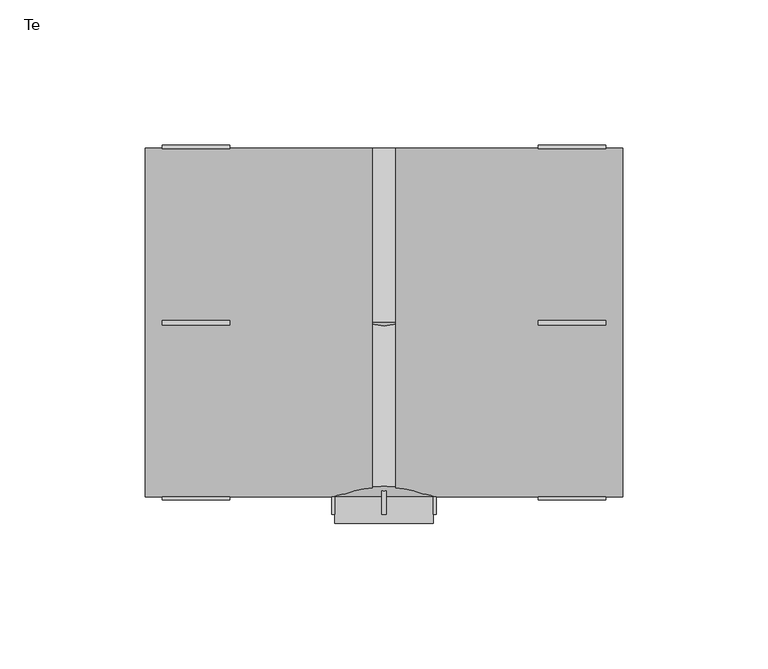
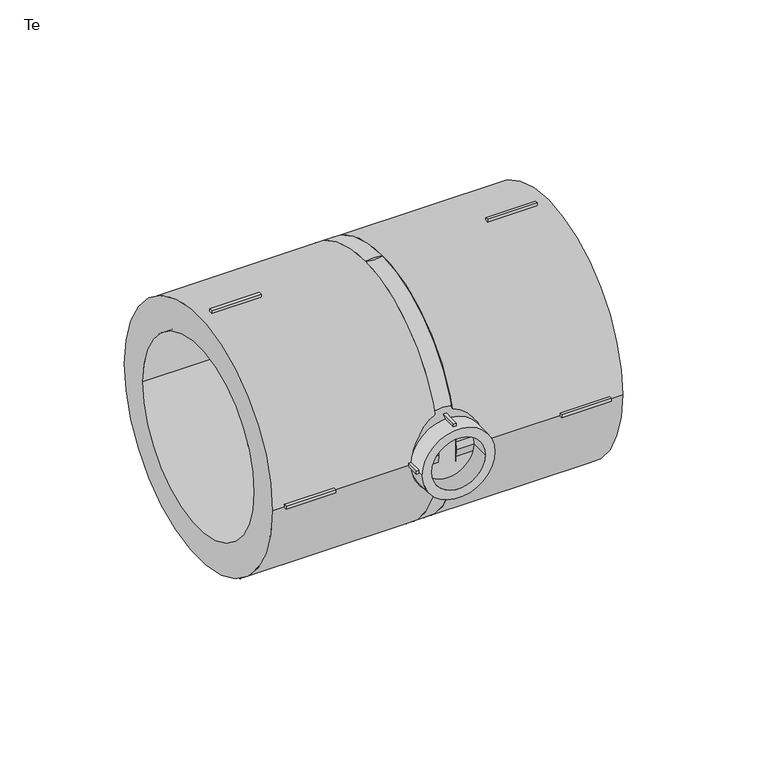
"""IFC4 building model written with IfcOpenShell, lengths in millimetres: pipe fitting geometry, EGB_VASEN_ PPR_Te WXR300_Te reducida WXR310 : Te."""

from ifc_helpers import new_model, si_unit, point, frame, origin, origin_2d, place, context, project, spatial, polyline, circle_curve, trimmed, segment, composite_curve, outline, extrude, source, transform, mapped, element, save
from ifc_brep_helpers import plane_surface, revolved_surface, advanced_brep


def te_e2ba4505(model_context):
    return source(origin(), model_context, "Body", "SolidModel", [
        extrude(outline(polyline([(-0.75, -54.0), (0.75, -54.0), (0.75, -66.0), (-0.75, -66.0), (-0.75, -54.0)])), frame((0.0, 0.0, 16.0), z_axis=(0.0, 0.0, 1.0), x_axis=(1.0, 0.0, 0.0)), (0.0, 0.0, 1.0), 2.0),
        extrude(outline(polyline([(-0.75, -54.0), (0.75, -54.0), (0.75, -66.0), (-0.75, -66.0), (-0.75, -54.0)])), frame((0.0, 0.0, -18.0), z_axis=(0.0, 0.0, 1.0), x_axis=(1.0, 0.0, 0.0)), (0.0, 0.0, 1.0), 2.0),
        extrude(outline(polyline([(16.0, -54.0), (18.0, -54.0), (18.0, -66.0), (16.0, -66.0), (16.0, -54.0)])), frame((0.0, 0.0, -0.75), z_axis=(0.0, 0.0, 1.0), x_axis=(1.0, 0.0, 0.0)), (0.0, 0.0, 1.0), 1.5),
        extrude(outline(polyline([(-18.0, -54.0), (-16.0, -54.0), (-16.0, -66.0), (-18.0, -66.0), (-18.0, -54.0)])), frame((0.0, 0.0, -0.75), z_axis=(0.0, 0.0, 1.0), x_axis=(1.0, 0.0, 0.0)), (0.0, 0.0, 1.0), 1.5),
        extrude(outline(polyline([(53.0, -0.75), (53.0, 0.75), (76.2, 0.75), (76.2, -0.75), (53.0, -0.75)])), frame((0.0, 0.0, 59.0), z_axis=(0.0, 0.0, 1.0), x_axis=(1.0, 0.0, 0.0)), (0.0, 0.0, 1.0), 2.0),
        extrude(outline(polyline([(53.0, -0.75), (53.0, 0.75), (76.2, 0.75), (76.2, -0.75), (53.0, -0.75)])), frame((0.0, 0.0, -61.0), z_axis=(0.0, 0.0, 1.0), x_axis=(1.0, 0.0, 0.0)), (0.0, 0.0, 1.0), 2.0),
        extrude(outline(polyline([(53.0, 59.0), (53.0, 61.0), (76.2, 61.0), (76.2, 59.0), (53.0, 59.0)])), frame((0.0, 0.0, -0.75), z_axis=(0.0, 0.0, 1.0), x_axis=(1.0, 0.0, 0.0)), (0.0, 0.0, 1.0), 1.5),
        extrude(outline(polyline([(53.0, -61.0), (53.0, -59.0), (76.2, -59.0), (76.2, -61.0), (53.0, -61.0)])), frame((0.0, 0.0, -0.75), z_axis=(0.0, 0.0, 1.0), x_axis=(1.0, 0.0, 0.0)), (0.0, 0.0, 1.0), 1.5),
        extrude(outline(polyline([(-53.0, 0.75), (-53.0, -0.75), (-76.2, -0.75), (-76.2, 0.75), (-53.0, 0.75)])), frame((0.0, 0.0, 59.0), z_axis=(0.0, 0.0, 1.0), x_axis=(1.0, 0.0, 0.0)), (0.0, 0.0, 1.0), 2.0),
        extrude(outline(polyline([(-53.0, 0.75), (-53.0, -0.75), (-76.2, -0.75), (-76.2, 0.75), (-53.0, 0.75)])), frame((0.0, 0.0, -61.0), z_axis=(0.0, 0.0, 1.0), x_axis=(1.0, 0.0, 0.0)), (0.0, 0.0, 1.0), 2.0),
        extrude(outline(polyline([(-53.0, 61.0), (-53.0, 59.0), (-76.2, 59.0), (-76.2, 61.0), (-53.0, 61.0)])), frame((0.0, 0.0, -0.75), z_axis=(0.0, 0.0, 1.0), x_axis=(1.0, 0.0, 0.0)), (0.0, 0.0, 1.0), 1.5),
        extrude(outline(polyline([(-53.0, -59.0), (-53.0, -61.0), (-76.2, -61.0), (-76.2, -59.0), (-53.0, -59.0)])), frame((0.0, 0.0, -0.75), z_axis=(0.0, 0.0, 1.0), x_axis=(1.0, 0.0, 0.0)), (0.0, 0.0, 1.0), 1.5),
        extrude(outline(composite_curve([segment(trimmed(circle_curve(origin_2d(), 17.0), [point((0.0, 17.0))], [point((0.0, -17.0))], False, "CARTESIAN"), True, "CONTINUOUS"), segment(trimmed(circle_curve(origin_2d(), 17.0), [point((0.0, -17.0))], [point((0.0, 17.0))], False, "CARTESIAN"), True, "CONTINUOUS")], self_intersect=False), holes=[composite_curve([segment(trimmed(circle_curve(origin_2d(), 12.5), [point((0.0, 12.5))], [point((0.0, -12.5))], True, "CARTESIAN"), True, "CONTINUOUS"), segment(trimmed(circle_curve(origin_2d(), 12.5), [point((0.0, -12.5))], [point((0.0, 12.5))], True, "CARTESIAN"), True, "CONTINUOUS")], self_intersect=False)]), frame((0.0, -69.0, 0.0), z_axis=(0.0, 1.0, 0.0), x_axis=(0.0, 0.0, 1.0)), (0.0, 0.0, 1.0), 9.0),
        extrude(outline(composite_curve([segment(trimmed(circle_curve(origin_2d(), 60.0), [point((-60.0, 0.0))], [point((60.0, 0.0))], False, "CARTESIAN"), True, "CONTINUOUS"), segment(trimmed(circle_curve(origin_2d(), 60.0), [point((60.0, 0.0))], [point((-60.0, 0.0))], False, "CARTESIAN"), True, "CONTINUOUS")], self_intersect=False), holes=[composite_curve([segment(trimmed(circle_curve(origin_2d(), 45.0), [point((-45.0, 0.0))], [point((45.0, 0.0))], True, "CARTESIAN"), True, "CONTINUOUS"), segment(trimmed(circle_curve(origin_2d(), 45.0), [point((45.0, 0.0))], [point((-45.0, 0.0))], True, "CARTESIAN"), True, "CONTINUOUS")], self_intersect=False)]), frame((4.08, 0.0, 0.0), z_axis=(1.0, 0.0, 0.0), x_axis=(0.0, 1.0, 0.0)), (0.0, 0.0, 1.0), 77.92),
        extrude(outline(composite_curve([segment(trimmed(circle_curve(origin_2d(), 60.0), [point((-60.0, 0.0))], [point((60.0, 0.0))], False, "CARTESIAN"), True, "CONTINUOUS"), segment(trimmed(circle_curve(origin_2d(), 60.0), [point((60.0, 0.0))], [point((-60.0, 0.0))], False, "CARTESIAN"), True, "CONTINUOUS")], self_intersect=False), holes=[composite_curve([segment(trimmed(circle_curve(origin_2d(), 45.0), [point((-45.0, 0.0))], [point((45.0, 0.0))], True, "CARTESIAN"), True, "CONTINUOUS"), segment(trimmed(circle_curve(origin_2d(), 45.0), [point((45.0, 0.0))], [point((-45.0, 0.0))], True, "CARTESIAN"), True, "CONTINUOUS")], self_intersect=False)]), frame((-82.0, 0.0, 0.0), z_axis=(1.0, 0.0, 0.0), x_axis=(0.0, 1.0, 0.0)), (0.0, 0.0, 1.0), 77.92),
        advanced_brep(
        [(60.0, 0.0, 0.0), (-60.0, 0.0, 0.0), (17.0, -60.0, 0.0), (-17.0, -60.0, 0.0)],
        [
            (0, 1, circle_curve(frame((0.0, 0.0, 0.0), z_axis=(0.0, 1.0, 0.0), x_axis=(1.0, 0.0, 0.0)), 60.0)),
            (1, 0, circle_curve(frame((0.0, 0.0, 0.0), z_axis=(0.0, 1.0, 0.0), x_axis=(-1.0, 0.0, 0.0)), 60.0)),
            (2, 3, circle_curve(frame((0.0, -60.0, 0.0), z_axis=(0.0, -1.0, 0.0), x_axis=(-1.0, 0.0, 0.0)), 17.0)),
            (3, 2, circle_curve(frame((0.0, -60.0, 0.0), z_axis=(0.0, -1.0, 0.0), x_axis=(1.0, 0.0, 0.0)), 17.0)),
            (3, 1),
            (0, 2),
        ],
        [
            plane_surface(frame((0.0, 0.0, 0.0), z_axis=(0.0, 1.0, 0.0), x_axis=(0.0, 0.0, -1.0))),
            plane_surface(frame((0.0, -60.0, 0.0), z_axis=(0.0, -1.0, 0.0), x_axis=(0.0, 0.0, -1.0))),
            revolved_surface(polyline([(-16.999999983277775, -60.0, 0.0), (-60.0, 0.0, 0.0)]), (0.0, -83.7209302, 0.0), (0.0, 1.0, 0.0)),
            revolved_surface(polyline([(16.999999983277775, -60.0, 0.0), (60.0, 0.0, 0.0)]), (0.0, -83.7209302, 0.0), (0.0, 1.0, 0.0)),
        ],
        [
            (0, [[1, 2]]),
            (1, [[3, 4]]),
            (2, [[-4, 5, -1, 6]]),
            (3, [[-3, -6, -2, -5]]),
        ],
    ),
        extrude(outline(composite_curve([segment(trimmed(circle_curve(origin_2d(), 60.0), [point((-60.0, 0.0))], [point((60.0, 0.0))], False, "CARTESIAN"), True, "CONTINUOUS"), segment(trimmed(circle_curve(origin_2d(), 60.0), [point((60.0, 0.0))], [point((-60.0, 0.0))], False, "CARTESIAN"), True, "CONTINUOUS")], self_intersect=False)), frame((-4.08, 0.0, 0.0), z_axis=(1.0, 0.0, 0.0), x_axis=(0.0, 1.0, 0.0)), (0.0, 0.0, 1.0), 8.16),
    ])


if __name__ == "__main__":
    model = new_model("IFC4")
    model_context = context("Model", 3, world=origin())
    ifc_project = project(units=[si_unit("LENGTHUNIT", "METRE", prefix="MILLI")], contexts=[model_context])
    site = spatial("IfcSite", under=ifc_project)
    building = spatial("IfcBuilding", under=site)
    placement = place(None, origin())
    te_shape = te_e2ba4505(model_context)
    element("IfcPipeFitting", 1, ObjectType="EGB_VASEN_ PPR_Te WXR300_Te reducida WXR310 : Te", at=placement, inside=building, context=model_context, shape_type="MappedRepresentation", body=[
        mapped(te_shape, transform((0.0, 0.0, 0.0), x_axis=(1.0, 0.0, 0.0), y_axis=(0.0, 1.0, 0.0), z_axis=(0.0, 0.0, 1.0))),
    ])
    save(model, "model.ifc")
